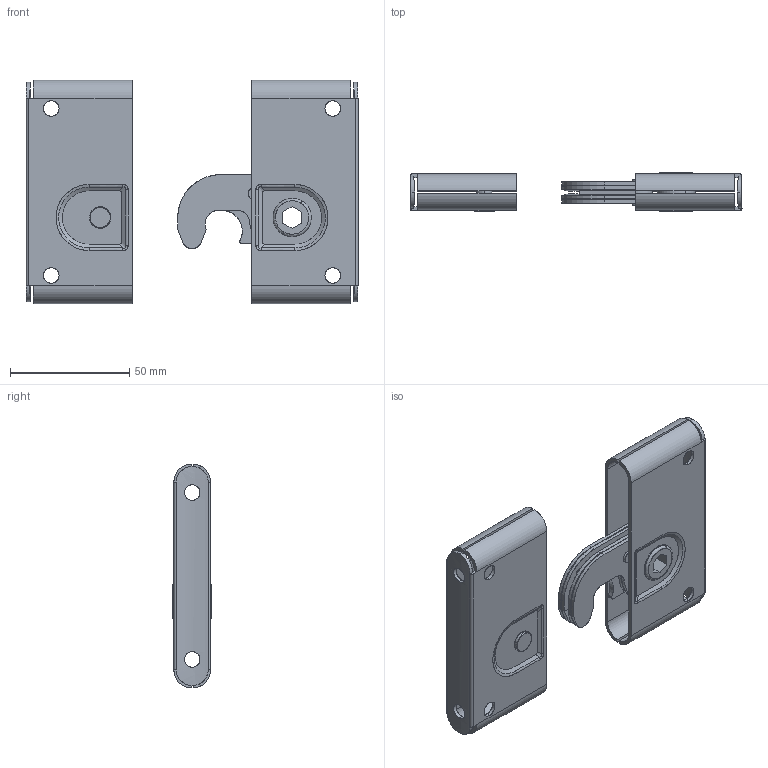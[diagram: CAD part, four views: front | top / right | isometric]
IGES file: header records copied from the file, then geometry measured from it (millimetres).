
Start section: SolidWorks IGES file using analytic representation for surfaces
Global section: file name: D:\尚坤工业图纸\SK1--门锁系列\SK1-R5-007\SK1-R5-007.IGS; native system: SolidWorks 2015; preprocessor: SolidWorks 2015; author: admin; date: 181101.115039; units: millimetre
Bounding box: 139.2 x 16 x 93.87 mm (x, y, z)
Surface area: 55763 mm2 (no closed solid volume)
Topology: 0 solids, 0 shells, 314 faces, 5384 edges, 5384 vertices
Faces by surface type: bspline 187, revolution 127
